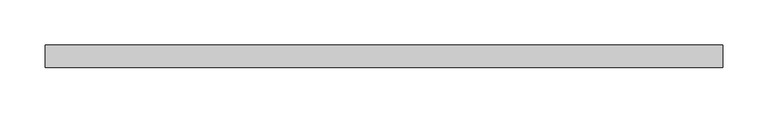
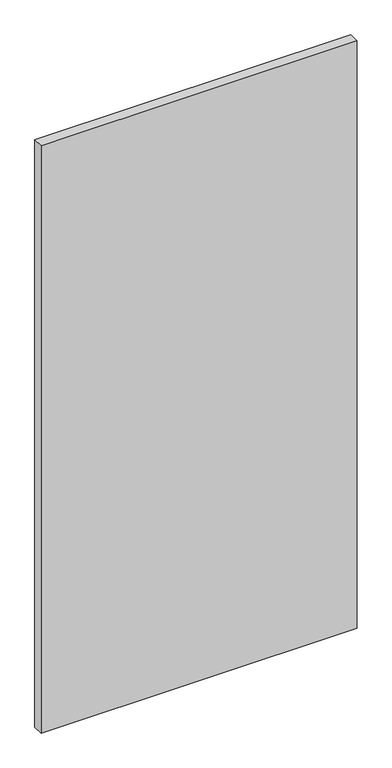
"""IFC4 building model written with IfcOpenShell, lengths in millimetres: plate geometry, 系统嵌板 : 玻璃."""

import ifcopenshell
import ifcopenshell.guid

model = None  # the IFC model being written
_history = None  # IfcOwnerHistory: only IFC2X3 demands one
_inside = {}  # id of a spatial element -> (the spatial element, [elements in it])
_under = {}  # id of a project, library or spatial element -> (it, [spatial elements below it])
_declared = {}  # id of a project -> (the project, [libraries it declares])
_typed = {}  # id of a type object -> (the type object, [elements of that type])
_made_of = {}  # id of a material, layer set ... -> (it, [elements and type objects made of it])


def new_model(schema):
    """Start an empty IFC model of exactly this schema.

    Asked for "IFC4X3", IfcOpenShell would pick the latest addendum, in which some entities
    have other attributes; the version numbers below select the first issue.
    IFC2X3 requires an IfcOwnerHistory on every rooted entity: one is made here for all.
    """
    global model, _history
    if schema == "IFC4X3":
        model = ifcopenshell.file(schema_version=(4, 3, 0, 0))
    else:
        model = ifcopenshell.file(schema=schema)
    _inside.clear()
    _under.clear()
    _declared.clear()
    _typed.clear()
    _made_of.clear()
    _history = None
    if model.schema == "IFC2X3":
        org = make("IfcOrganization", Name="unknown")
        user = make(
            "IfcPersonAndOrganization",
            ThePerson=make("IfcPerson", FamilyName="unknown"),
            TheOrganization=org,
        )
        app = make(
            "IfcApplication",
            ApplicationDeveloper=org,
            Version="unknown",
            ApplicationFullName="unknown",
            ApplicationIdentifier="unknown",
        )
        _history = make(
            "IfcOwnerHistory",
            OwningUser=user,
            OwningApplication=app,
            ChangeAction="ADDED",
            CreationDate=0,
        )
    return model


def make(cls, **values):
    """One entity of the class cls with the attributes given. An attribute that is None is left unset."""
    return model.create_entity(
        cls, **{name: value for name, value in values.items() if value is not None}
    )


def rooted(cls, **values):
    """An entity with a GlobalId (a new one), such as an element, a storey or a relation."""
    return make(cls, GlobalId=ifcopenshell.guid.new(), OwnerHistory=_history, **values)


def si_unit(unit_type, name, prefix=None):
    """IfcSIUnit, for example si_unit("LENGTHUNIT", "METRE", prefix="MILLI")."""
    return make("IfcSIUnit", UnitType=unit_type, Prefix=prefix, Name=name)


def assignment(units):
    """IfcUnitAssignment: the units of a project."""
    return None if units is None else make("IfcUnitAssignment", Units=units)


def point(xyz):
    """IfcCartesianPoint."""
    return None if xyz is None else make("IfcCartesianPoint", Coordinates=xyz)


def direction(xyz):
    """IfcDirection."""
    return None if xyz is None else make("IfcDirection", DirectionRatios=xyz)


def frame(location, z_axis=None, x_axis=None):
    """IfcAxis2Placement3D, a coordinate frame: its origin and axes. An axis left out is left unset."""
    return make(
        "IfcAxis2Placement3D",
        Location=point(location),
        Axis=direction(z_axis),
        RefDirection=direction(x_axis),
    )


def origin():
    """The frame at (0, 0, 0) with its axes left unset."""
    return frame((0.0, 0.0, 0.0))


def origin_with_axes():
    """The frame at (0, 0, 0) with the z axis (0, 0, 1) and the x axis (1, 0, 0) written out."""
    return frame((0.0, 0.0, 0.0), z_axis=(0.0, 0.0, 1.0), x_axis=(1.0, 0.0, 0.0))


def place(relative_to, where):
    """IfcLocalPlacement: puts the frame where relative to a parent placement (None: the world)."""
    return make(
        "IfcLocalPlacement", PlacementRelTo=relative_to, RelativePlacement=where
    )


def context(
    kind, dimensions, precision=None, world=None, true_north=None, identifier=None
):
    """IfcGeometricRepresentationContext, for example the 3D "Model" context."""
    return make(
        "IfcGeometricRepresentationContext",
        ContextIdentifier=identifier,
        ContextType=kind,
        CoordinateSpaceDimension=dimensions,
        Precision=precision,
        WorldCoordinateSystem=world,
        TrueNorth=true_north,
    )


def project(units=None, contexts=None):
    """IfcProject with its units and contexts."""
    return rooted(
        "IfcProject",
        Name="project",
        RepresentationContexts=contexts,
        UnitsInContext=assignment(units),
    )


def spatial(cls, under=None, at=None, **own):
    """A site, building, storey or space (cls), placed at a placement, below another one or the project."""
    s = rooted(cls, ObjectPlacement=at, **own)
    if under is not None:
        _under.setdefault(under.id(), (under, []))[1].append(s)
    return s


def polyline(points):
    """IfcPolyline through the points."""
    return make("IfcPolyline", Points=[point(p) for p in points])


def outline(outer, holes=None, kind="AREA"):
    """IfcArbitraryClosedProfileDef: a profile drawn as a closed curve; with holes, ...WithVoids."""
    if holes is None:
        return make("IfcArbitraryClosedProfileDef", ProfileType=kind, OuterCurve=outer)
    return make(
        "IfcArbitraryProfileDefWithVoids",
        ProfileType=kind,
        OuterCurve=outer,
        InnerCurves=holes,
    )


def extrude(swept, where, along, depth):
    """IfcExtrudedAreaSolid: the profile swept, set in the frame where, extruded along a direction by depth."""
    return make(
        "IfcExtrudedAreaSolid",
        SweptArea=swept,
        Position=where,
        ExtrudedDirection=direction(along),
        Depth=depth,
    )


def shape(context_of_items, identifier, shape_type, items):
    """IfcShapeRepresentation: the items that make up one representation, for example the "Body"."""
    return make(
        "IfcShapeRepresentation",
        ContextOfItems=context_of_items,
        RepresentationIdentifier=identifier,
        RepresentationType=shape_type,
        Items=items,
    )


def source(mapping_origin, context_of_items, identifier, shape_type, items):
    """IfcRepresentationMap: a shape defined once, which mapped items show again and again."""
    return make(
        "IfcRepresentationMap",
        MappingOrigin=mapping_origin,
        MappedRepresentation=shape(context_of_items, identifier, shape_type, items),
    )


def transform(
    local_origin,
    x_axis=None,
    y_axis=None,
    z_axis=None,
    scale=None,
    scale2=None,
    scale3=None,
    uniform=True,
):
    """IfcCartesianTransformationOperator3D, or its non-uniform kind. x_axis, y_axis, z_axis: its Axis1, 2, 3."""
    if uniform:
        return make(
            "IfcCartesianTransformationOperator3D",
            Axis1=direction(x_axis),
            Axis2=direction(y_axis),
            LocalOrigin=point(local_origin),
            Scale=scale,
            Axis3=direction(z_axis),
        )
    return make(
        "IfcCartesianTransformationOperator3DnonUniform",
        Axis1=direction(x_axis),
        Axis2=direction(y_axis),
        LocalOrigin=point(local_origin),
        Scale=scale,
        Axis3=direction(z_axis),
        Scale2=scale2,
        Scale3=scale3,
    )


def mapped(mapping_source, mapping_target):
    """IfcMappedItem: shows the shape of a source again, moved by a transform."""
    return make(
        "IfcMappedItem", MappingSource=mapping_source, MappingTarget=mapping_target
    )


def made_of(thing, what):
    """Note that an element or type object is made of a material, layer set ...; save() writes the relation."""
    if what is not None:
        _made_of.setdefault(what.id(), (what, []))[1].append(thing)
    return thing


def element(
    cls,
    number,
    at=None,
    inside=None,
    cuts=None,
    type_object=None,
    material=None,
    context=None,
    identifier="Body",
    shape_type=None,
    held_by="IfcProductDefinitionShape",
    body=None,
    shapes=None,
    **own,
):
    """One element of the class cls, such as IfcWall. Its Tag is "e" and its number.

    at: its placement. inside: the storey or other place that contains it. cuts: it is an
    opening in that element (IfcRelVoidsElement). A single representation is given by context,
    identifier, shape_type and body (its items); several are given by shapes. held_by: the class
    of the entity that holds the representations. save() writes the other relations.
    """
    e = rooted(cls, Tag="e%d" % number, ObjectPlacement=at, **own)
    if body is not None:
        shapes = [shape(context, identifier, shape_type, body)]
    if shapes is not None:
        e.Representation = make(held_by, Representations=shapes)
    if inside is not None:
        _inside.setdefault(inside.id(), (inside, []))[1].append(e)
    if cuts is not None:
        rooted(
            "IfcRelVoidsElement", RelatingBuildingElement=cuts, RelatedOpeningElement=e
        )
    if type_object is not None:
        _typed.setdefault(type_object.id(), (type_object, []))[1].append(e)
    return made_of(e, material)


def aggregate(whole, parts):
    """IfcRelAggregates: a whole, such as a stair, and the parts it consists of."""
    return rooted("IfcRelAggregates", RelatingObject=whole, RelatedObjects=parts)


def save(model, path):
    """Write the relations noted so far, then the file.

    IfcRelAggregates (storeys below a building ...), IfcRelContainedInSpatialStructure (elements
    in a storey), IfcRelDefinesByType, IfcRelAssociatesMaterial and IfcRelDeclares: one each for
    every whole, place, type object, material and project.
    """
    for whole, parts in _under.values():
        aggregate(whole, parts)
    for where, things in _inside.values():
        rooted(
            "IfcRelContainedInSpatialStructure",
            RelatedElements=things,
            RelatingStructure=where,
        )
    for kind, things in _typed.values():
        rooted("IfcRelDefinesByType", RelatedObjects=things, RelatingType=kind)
    for what, things in _made_of.values():
        rooted("IfcRelAssociatesMaterial", RelatedObjects=things, RelatingMaterial=what)
    for by, libraries in _declared.values():
        rooted("IfcRelDeclares", RelatingContext=by, RelatedDefinitions=libraries)
    model.write(path)


def plate_54ac635d(model_context):
    return source(origin(), model_context, "Body", "SweptSolid", [
        extrude(outline(polyline([(374.2640687, -12.5), (-374.2640687, -12.5), (-374.2640687, 12.5), (374.2640687, 12.5), (374.2640687, -12.5)])), origin_with_axes(), (0.0, 0.0, 1.0), 1470.0),
    ])


if __name__ == "__main__":
    model = new_model("IFC4")
    model_context = context("Model", 3, world=origin())
    ifc_project = project(units=[si_unit("LENGTHUNIT", "METRE", prefix="MILLI")], contexts=[model_context])
    site = spatial("IfcSite", under=ifc_project)
    building = spatial("IfcBuilding", under=site)
    placement = place(None, origin())
    plate_shape = plate_54ac635d(model_context)
    element("IfcPlate", 1, ObjectType="系统嵌板 : 玻璃", at=placement, inside=building, context=model_context, shape_type="MappedRepresentation", body=[
        mapped(plate_shape, transform((0.0, 0.0, 0.0), x_axis=(1.0, 0.0, 0.0), y_axis=(0.0, 1.0, 0.0), z_axis=(0.0, 0.0, 1.0))),
    ])
    save(model, "model.ifc")
